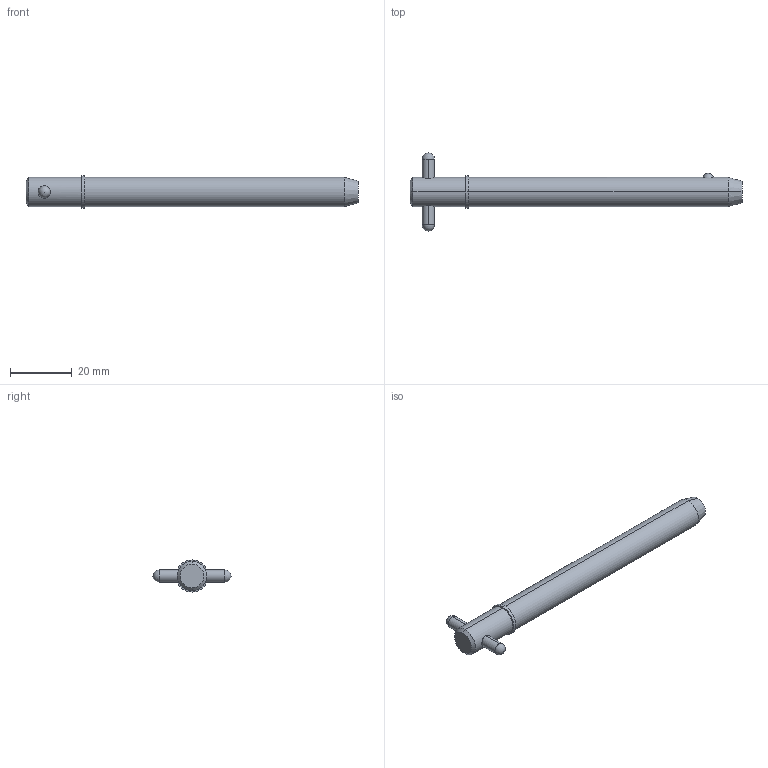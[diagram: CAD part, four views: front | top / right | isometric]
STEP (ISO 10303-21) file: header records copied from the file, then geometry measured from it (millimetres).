
FILE_DESCRIPTION (( 'STEP AP203' ), '1' );
FILE_NAME ('33018.W3730.step', '2024-11-19T17:11:31', ( '' ), ( '' ), 'SwSTEP 2.0', 'SolidWorks 2019', '' );
FILE_SCHEMA (( 'CONFIG_CONTROL_DESIGN' ));
Length unit declared in the file: millimetre
Products named in the file (3): Part2_33018.W3730; 33018.W3730; Part1_33018.W3730
Assembly tree (2 placements, depth 2):
  33018.W3730
    Part1_33018.W3730
    Part2_33018.W3730
Bounding box: 107.95 x 25.4 x 10.48 mm (x, y, z)
Volume: 7818.6 mm3; surface area: 3756.4 mm2
Topology: 2 solids, 2 shells, 22 faces, 47 edges, 30 vertices
Faces by surface type: cylinder 10, sphere 4, cone 4, plane 4
Entity records: 1023 total; most frequent: CARTESIAN_POINT 266, DIRECTION 110, ORIENTED_EDGE 82, AXIS2_PLACEMENT_3D 48, EDGE_CURVE 41, EDGE_LOOP 27, VERTEX_POINT 26, PERSON_AND_ORGANIZATION 26
